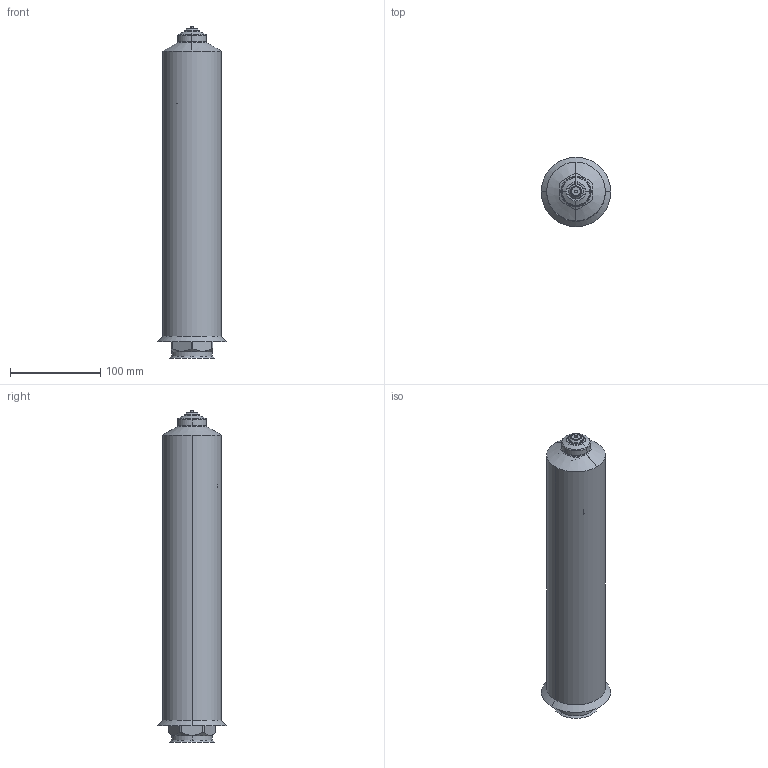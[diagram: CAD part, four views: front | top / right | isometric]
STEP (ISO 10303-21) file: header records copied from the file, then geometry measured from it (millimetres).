
FILE_DESCRIPTION (( 'STEP AP214' ), '1' );
FILE_NAME ('T20_OPEN_350_HELICAL.STEP', '2009-05-11T13:14:26', ( 'Synventive Molding Solutions' ), ( 'Synventive Molding Solutions' ), 'SwSTEP 2.0', 'SolidWorks 2008', '' );
FILE_SCHEMA (( 'AUTOMOTIVE_DESIGN' ));
Length unit declared in the file: millimetre
Products named in the file (1): T20_OPEN_350_HELICAL
Bounding box: 77 x 77 x 368 mm (x, y, z)
Volume: 1710222.3 mm3; surface area: 147620.8 mm2
Topology: 2 solids, 2 shells, 258 faces, 668 edges, 424 vertices
Faces by surface type: cylinder 89, plane 74, bspline 35, torus 34, cone 26
Entity records: 21257 total; most frequent: CARTESIAN_POINT 12562, ORIENTED_EDGE 1336, DIRECTION 1107, EDGE_CURVE 668, AXIS2_PLACEMENT_3D 440, VERTEX_POINT 424, EDGE_LOOP 272, UNCERTAINTY_MEASURE_WITH_UNIT 260
